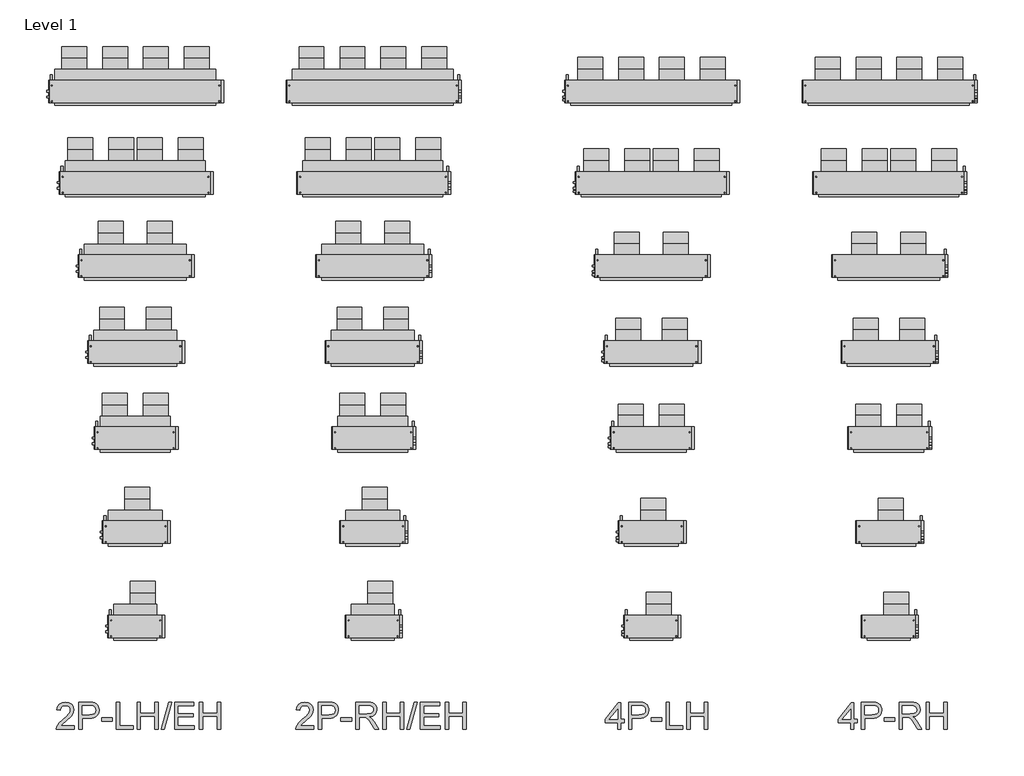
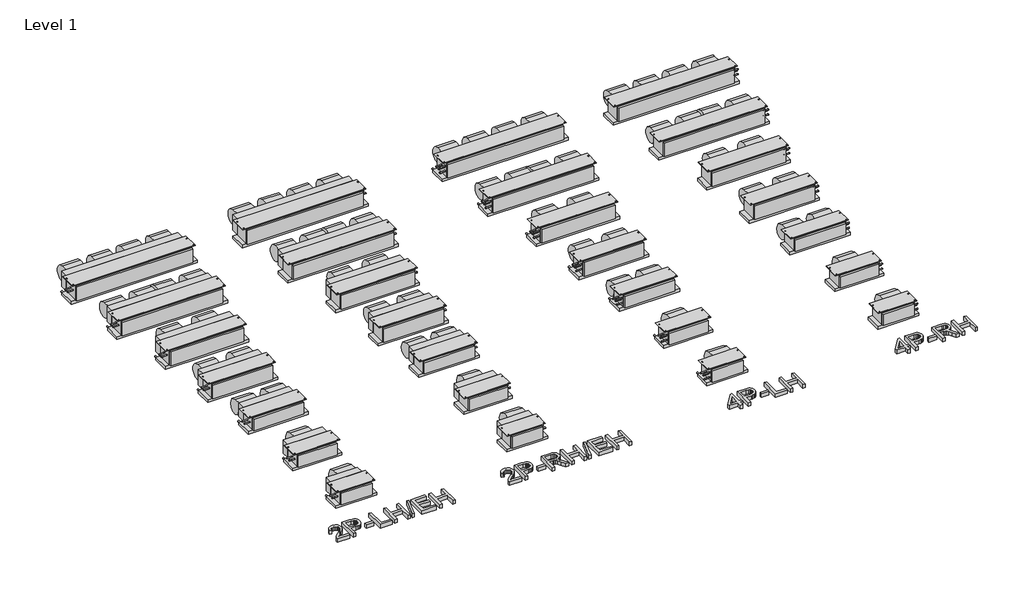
# One storey: 32 proxies.
"""IFC4 building model written with IfcOpenShell, lengths in millimetres."""

from ifc_helpers import new_model, si_unit, origin, origin_with_axes, place, context, project, spatial, polyline, outline, extrude, transform, mapped, element, save
from components import mechanical_equipment_4d875cfd, mechanical_equipment_aa275e35, mechanical_equipment_27b90bb7, mechanical_equipment_f04c1c21, mechanical_equipment_6a71e000, mechanical_equipment_d047f1c4, mechanical_equipment_a045ce82, mechanical_equipment_c10a815c, mechanical_equipment_d114ed6d, mechanical_equipment_5b975ff3, mechanical_equipment_e56f94ae, mechanical_equipment_732dcff0, mechanical_equipment_fb2e328b, mechanical_equipment_f4c6fe70, mechanical_equipment_4d4a7879, mechanical_equipment_7fdcf23d, mechanical_equipment_bc7a5f60, mechanical_equipment_8f95228b, mechanical_equipment_b4faf0b1, mechanical_equipment_d157ac76, mechanical_equipment_1a111bbf, mechanical_equipment_669136e0, mechanical_equipment_ed30026a, mechanical_equipment_0b4bd46c, mechanical_equipment_5134b406, mechanical_equipment_892aee5b, mechanical_equipment_12361658, mechanical_equipment_acb72b8a

model = new_model("IFC4")

# Units and contexts
model_context = context("Model", 3, world=origin())
ifc_project = project(units=[si_unit("LENGTHUNIT", "METRE", prefix="MILLI")], contexts=[model_context])

# Site, building, storey
site = spatial("IfcSite", under=ifc_project)
building = spatial("IfcBuilding", under=site)
storey = spatial("IfcBuildingStorey", under=building, Name="Level 1", Elevation=0.0)

# Proxies
placement = place(None, origin())
mechanical_equipment_shape = mechanical_equipment_4d875cfd(model_context)
element("IfcBuildingElementProxy", 1, Name="Concealed_Horizontal_Fan_Coil_Unit_-_42CAA_-_CARRIER_-_2-Pipe_Cool-EHeat_LH_2022 : Size 02 - 277v/60Hz/1Ph - 4 Row 2.0kW", ObjectType="Concealed_Horizontal_Fan_Coil_Unit_-_42CAA_-_CARRIER_-_2-Pipe_Cool-EHeat_LH_2022 : Size 02 - 277v/60Hz/1Ph - 4 Row 2.0kW", at=placement, inside=storey, context=model_context, shape_type="MappedRepresentation", body=[
    mapped(mechanical_equipment_shape, transform((-13802.5071987, -1053.2557336, 0.0), x_axis=(1.0, 0.0, 0.0), y_axis=(0.0, 1.0, 0.0), z_axis=(0.0, 0.0, 1.0))),
])
mechanical_equipment_2_shape = mechanical_equipment_aa275e35(model_context)
element("IfcBuildingElementProxy", 2, Name="Concealed_Horizontal_Fan_Coil_Unit_-_42CAA_-_CARRIER_-_2-Pipe_Cool-EHeat_LH_2022 : Size 03 - 277v/60Hz/1Ph - 4 Row 3.0kW", ObjectType="Concealed_Horizontal_Fan_Coil_Unit_-_42CAA_-_CARRIER_-_2-Pipe_Cool-EHeat_LH_2022 : Size 03 - 277v/60Hz/1Ph - 4 Row 3.0kW", at=placement, inside=storey, context=model_context, shape_type="MappedRepresentation", body=[
    mapped(mechanical_equipment_2_shape, transform((-13802.5071987, -164.2557336, 0.0), x_axis=(1.0, 0.0, 0.0), y_axis=(0.0, 1.0, 0.0), z_axis=(0.0, 0.0, 1.0))),
])
mechanical_equipment_3_shape = mechanical_equipment_27b90bb7(model_context)
element("IfcBuildingElementProxy", 3, Name="Concealed_Horizontal_Fan_Coil_Unit_-_42CAA_-_CARRIER_-_2-Pipe_Cool-EHeat_LH_2022 : Size 04 - 277v/60Hz/1Ph - 4 Row 3.0kW", ObjectType="Concealed_Horizontal_Fan_Coil_Unit_-_42CAA_-_CARRIER_-_2-Pipe_Cool-EHeat_LH_2022 : Size 04 - 277v/60Hz/1Ph - 4 Row 3.0kW", at=placement, inside=storey, context=model_context, shape_type="MappedRepresentation", body=[
    mapped(mechanical_equipment_3_shape, transform((-13802.5071987, 724.7442664, 0.0), x_axis=(1.0, 0.0, 0.0), y_axis=(0.0, 1.0, 0.0), z_axis=(0.0, 0.0, 1.0))),
])
mechanical_equipment_4_shape = mechanical_equipment_f04c1c21(model_context)
element("IfcBuildingElementProxy", 4, Name="Concealed_Horizontal_Fan_Coil_Unit_-_42CAA_-_CARRIER_-_2-Pipe_Cool-EHeat_LH_2022 : Size 06 - 277v/60Hz/1Ph - 4 Row 6.0kW", ObjectType="Concealed_Horizontal_Fan_Coil_Unit_-_42CAA_-_CARRIER_-_2-Pipe_Cool-EHeat_LH_2022 : Size 06 - 277v/60Hz/1Ph - 4 Row 6.0kW", at=placement, inside=storey, context=model_context, shape_type="MappedRepresentation", body=[
    mapped(mechanical_equipment_4_shape, transform((-13802.5071987, 1537.5442664, 0.0), x_axis=(1.0, 0.0, 0.0), y_axis=(0.0, 1.0, 0.0), z_axis=(0.0, 0.0, 1.0))),
])
mechanical_equipment_5_shape = mechanical_equipment_6a71e000(model_context)
element("IfcBuildingElementProxy", 5, Name="Concealed_Horizontal_Fan_Coil_Unit_-_42CAA_-_CARRIER_-_2-Pipe_Cool-EHeat_LH_2022 : Size 08 - 277v/60Hz/1Ph - 4 Row 6.0kW", ObjectType="Concealed_Horizontal_Fan_Coil_Unit_-_42CAA_-_CARRIER_-_2-Pipe_Cool-EHeat_LH_2022 : Size 08 - 277v/60Hz/1Ph - 4 Row 6.0kW", at=placement, inside=storey, context=model_context, shape_type="MappedRepresentation", body=[
    mapped(mechanical_equipment_5_shape, transform((-13802.5071987, 2350.3442664, 0.0), x_axis=(1.0, 0.0, 0.0), y_axis=(0.0, 1.0, 0.0), z_axis=(0.0, 0.0, 1.0))),
])
mechanical_equipment_6_shape = mechanical_equipment_d047f1c4(model_context)
element("IfcBuildingElementProxy", 6, Name="Concealed_Horizontal_Fan_Coil_Unit_-_42CAA_-_CARRIER_-_2-Pipe_Cool-EHeat_LH_2022 : Size 10 - 277v/60Hz/1Ph - 4 Row 8.0kW", ObjectType="Concealed_Horizontal_Fan_Coil_Unit_-_42CAA_-_CARRIER_-_2-Pipe_Cool-EHeat_LH_2022 : Size 10 - 277v/60Hz/1Ph - 4 Row 8.0kW", at=placement, inside=storey, context=model_context, shape_type="MappedRepresentation", body=[
    mapped(mechanical_equipment_6_shape, transform((-13802.5071987, 3137.7442664, 0.0), x_axis=(1.0, 0.0, 0.0), y_axis=(0.0, 1.0, 0.0), z_axis=(0.0, 0.0, 1.0))),
])
mechanical_equipment_7_shape = mechanical_equipment_a045ce82(model_context)
element("IfcBuildingElementProxy", 7, Name="Concealed_Horizontal_Fan_Coil_Unit_-_42CAA_-_CARRIER_-_2-Pipe_Cool-EHeat_LH_2022 : Size 12 - 277v/60Hz/1Ph - 4 Row 10.0kW", ObjectType="Concealed_Horizontal_Fan_Coil_Unit_-_42CAA_-_CARRIER_-_2-Pipe_Cool-EHeat_LH_2022 : Size 12 - 277v/60Hz/1Ph - 4 Row 10.0kW", at=placement, inside=storey, context=model_context, shape_type="MappedRepresentation", body=[
    mapped(mechanical_equipment_7_shape, transform((-13802.5071987, 4001.3442664, 0.0), x_axis=(1.0, 0.0, 0.0), y_axis=(0.0, 1.0, 0.0), z_axis=(0.0, 0.0, 1.0))),
])
mechanical_equipment_8_shape = mechanical_equipment_c10a815c(model_context)
element("IfcBuildingElementProxy", 8, Name="Concealed_Horizontal_Fan_Coil_Unit_-_42CAA_-_CARRIER_-_4-Pipe_LH_2022 : Size 02 - 277v/60Hz/1Ph - 4/1 Coil", ObjectType="Concealed_Horizontal_Fan_Coil_Unit_-_42CAA_-_CARRIER_-_4-Pipe_LH_2022 : Size 02 - 277v/60Hz/1Ph - 4/1 Coil", at=placement, inside=storey, context=model_context, shape_type="MappedRepresentation", body=[
    mapped(mechanical_equipment_8_shape, transform((-8925.7071987, -1053.2557336, 0.0), x_axis=(1.0, 0.0, 0.0), y_axis=(0.0, 1.0, 0.0), z_axis=(0.0, 0.0, 1.0))),
])
mechanical_equipment_9_shape = mechanical_equipment_d114ed6d(model_context)
element("IfcBuildingElementProxy", 9, Name="Concealed_Horizontal_Fan_Coil_Unit_-_42CAA_-_CARRIER_-_4-Pipe_LH_2022 : Size 03 - 277v/60Hz/1Ph - 4/1 Coil", ObjectType="Concealed_Horizontal_Fan_Coil_Unit_-_42CAA_-_CARRIER_-_4-Pipe_LH_2022 : Size 03 - 277v/60Hz/1Ph - 4/1 Coil", at=placement, inside=storey, context=model_context, shape_type="MappedRepresentation", body=[
    mapped(mechanical_equipment_9_shape, transform((-8925.7071987, -164.2557336, 0.0), x_axis=(1.0, 0.0, 0.0), y_axis=(0.0, 1.0, 0.0), z_axis=(0.0, 0.0, 1.0))),
])
mechanical_equipment_10_shape = mechanical_equipment_5b975ff3(model_context)
element("IfcBuildingElementProxy", 10, Name="Concealed_Horizontal_Fan_Coil_Unit_-_42CAA_-_CARRIER_-_4-Pipe_LH_2022 : Size 04 - 277v/60Hz/1Ph - 4/1 Coil", ObjectType="Concealed_Horizontal_Fan_Coil_Unit_-_42CAA_-_CARRIER_-_4-Pipe_LH_2022 : Size 04 - 277v/60Hz/1Ph - 4/1 Coil", at=placement, inside=storey, context=model_context, shape_type="MappedRepresentation", body=[
    mapped(mechanical_equipment_10_shape, transform((-8925.7071987, 724.7442664, 0.0), x_axis=(1.0, 0.0, 0.0), y_axis=(0.0, 1.0, 0.0), z_axis=(0.0, 0.0, 1.0))),
])
mechanical_equipment_11_shape = mechanical_equipment_e56f94ae(model_context)
element("IfcBuildingElementProxy", 11, Name="Concealed_Horizontal_Fan_Coil_Unit_-_42CAA_-_CARRIER_-_4-Pipe_LH_2022 : Size 06 - 277v/60Hz/1Ph - 4/1 Coil", ObjectType="Concealed_Horizontal_Fan_Coil_Unit_-_42CAA_-_CARRIER_-_4-Pipe_LH_2022 : Size 06 - 277v/60Hz/1Ph - 4/1 Coil", at=placement, inside=storey, context=model_context, shape_type="MappedRepresentation", body=[
    mapped(mechanical_equipment_11_shape, transform((-8925.7071987, 1537.5442664, 0.0), x_axis=(1.0, 0.0, 0.0), y_axis=(0.0, 1.0, 0.0), z_axis=(0.0, 0.0, 1.0))),
])
mechanical_equipment_12_shape = mechanical_equipment_732dcff0(model_context)
element("IfcBuildingElementProxy", 12, Name="Concealed_Horizontal_Fan_Coil_Unit_-_42CAA_-_CARRIER_-_4-Pipe_LH_2022 : Size 08 - 277v/60Hz/1Ph - 4/1 Coil", ObjectType="Concealed_Horizontal_Fan_Coil_Unit_-_42CAA_-_CARRIER_-_4-Pipe_LH_2022 : Size 08 - 277v/60Hz/1Ph - 4/1 Coil", at=placement, inside=storey, context=model_context, shape_type="MappedRepresentation", body=[
    mapped(mechanical_equipment_12_shape, transform((-8925.7071987, 2350.3442664, 0.0), x_axis=(1.0, 0.0, 0.0), y_axis=(0.0, 1.0, 0.0), z_axis=(0.0, 0.0, 1.0))),
])
mechanical_equipment_13_shape = mechanical_equipment_fb2e328b(model_context)
element("IfcBuildingElementProxy", 13, Name="Concealed_Horizontal_Fan_Coil_Unit_-_42CAA_-_CARRIER_-_4-Pipe_LH_2022 : Size 10 - 277v/60Hz/1Ph - 4/1 Coil", ObjectType="Concealed_Horizontal_Fan_Coil_Unit_-_42CAA_-_CARRIER_-_4-Pipe_LH_2022 : Size 10 - 277v/60Hz/1Ph - 4/1 Coil", at=placement, inside=storey, context=model_context, shape_type="MappedRepresentation", body=[
    mapped(mechanical_equipment_13_shape, transform((-8925.7071987, 3137.7442664, 0.0), x_axis=(1.0, 0.0, 0.0), y_axis=(0.0, 1.0, 0.0), z_axis=(0.0, 0.0, 1.0))),
])
mechanical_equipment_14_shape = mechanical_equipment_f4c6fe70(model_context)
element("IfcBuildingElementProxy", 14, Name="Concealed_Horizontal_Fan_Coil_Unit_-_42CAA_-_CARRIER_-_4-Pipe_LH_2022 : Size 12 - 277v/60Hz/1Ph - 4/1 Coil", ObjectType="Concealed_Horizontal_Fan_Coil_Unit_-_42CAA_-_CARRIER_-_4-Pipe_LH_2022 : Size 12 - 277v/60Hz/1Ph - 4/1 Coil", at=placement, inside=storey, context=model_context, shape_type="MappedRepresentation", body=[
    mapped(mechanical_equipment_14_shape, transform((-8925.7071987, 4001.3442664, 0.0), x_axis=(1.0, 0.0, 0.0), y_axis=(0.0, 1.0, 0.0), z_axis=(0.0, 0.0, 1.0))),
])
mechanical_equipment_15_shape = mechanical_equipment_4d4a7879(model_context)
element("IfcBuildingElementProxy", 15, Name="Concealed_Horizontal_Fan_Coil_Unit_-_42CAA_-_CARRIER_-_2-Pipe_Cool-EHeat_RH_2022 : Size 02 - 277v/60Hz/1Ph - 4 Row 2.0kW", ObjectType="Concealed_Horizontal_Fan_Coil_Unit_-_42CAA_-_CARRIER_-_2-Pipe_Cool-EHeat_RH_2022 : Size 02 - 277v/60Hz/1Ph - 4 Row 2.0kW", at=placement, inside=storey, context=model_context, shape_type="MappedRepresentation", body=[
    mapped(mechanical_equipment_15_shape, transform((-11558.3213845, -1053.2557336, 0.0), x_axis=(1.0, 0.0, 0.0), y_axis=(0.0, 1.0, 0.0), z_axis=(0.0, 0.0, 1.0))),
])
mechanical_equipment_16_shape = mechanical_equipment_7fdcf23d(model_context)
element("IfcBuildingElementProxy", 16, Name="Concealed_Horizontal_Fan_Coil_Unit_-_42CAA_-_CARRIER_-_2-Pipe_Cool-EHeat_RH_2022 : Size 03 - 277v/60Hz/1Ph - 4 Row 3.0kW", ObjectType="Concealed_Horizontal_Fan_Coil_Unit_-_42CAA_-_CARRIER_-_2-Pipe_Cool-EHeat_RH_2022 : Size 03 - 277v/60Hz/1Ph - 4 Row 3.0kW", at=placement, inside=storey, context=model_context, shape_type="MappedRepresentation", body=[
    mapped(mechanical_equipment_16_shape, transform((-11558.3213845, -164.2557336, 0.0), x_axis=(1.0, 0.0, 0.0), y_axis=(0.0, 1.0, 0.0), z_axis=(0.0, 0.0, 1.0))),
])
mechanical_equipment_17_shape = mechanical_equipment_bc7a5f60(model_context)
element("IfcBuildingElementProxy", 17, Name="Concealed_Horizontal_Fan_Coil_Unit_-_42CAA_-_CARRIER_-_2-Pipe_Cool-EHeat_RH_2022 : Size 04 - 277v/60Hz/1Ph - 4 Row 3.0kW", ObjectType="Concealed_Horizontal_Fan_Coil_Unit_-_42CAA_-_CARRIER_-_2-Pipe_Cool-EHeat_RH_2022 : Size 04 - 277v/60Hz/1Ph - 4 Row 3.0kW", at=placement, inside=storey, context=model_context, shape_type="MappedRepresentation", body=[
    mapped(mechanical_equipment_17_shape, transform((-11558.3213845, 724.7442664, 0.0), x_axis=(1.0, 0.0, 0.0), y_axis=(0.0, 1.0, 0.0), z_axis=(0.0, 0.0, 1.0))),
])
mechanical_equipment_18_shape = mechanical_equipment_8f95228b(model_context)
element("IfcBuildingElementProxy", 18, Name="Concealed_Horizontal_Fan_Coil_Unit_-_42CAA_-_CARRIER_-_2-Pipe_Cool-EHeat_RH_2022 : Size 06 - 277v/60Hz/1Ph - 4 Row 6.0kW", ObjectType="Concealed_Horizontal_Fan_Coil_Unit_-_42CAA_-_CARRIER_-_2-Pipe_Cool-EHeat_RH_2022 : Size 06 - 277v/60Hz/1Ph - 4 Row 6.0kW", at=placement, inside=storey, context=model_context, shape_type="MappedRepresentation", body=[
    mapped(mechanical_equipment_18_shape, transform((-11558.3213845, 1537.5442664, 0.0), x_axis=(1.0, 0.0, 0.0), y_axis=(0.0, 1.0, 0.0), z_axis=(0.0, 0.0, 1.0))),
])
mechanical_equipment_19_shape = mechanical_equipment_b4faf0b1(model_context)
element("IfcBuildingElementProxy", 19, Name="Concealed_Horizontal_Fan_Coil_Unit_-_42CAA_-_CARRIER_-_2-Pipe_Cool-EHeat_RH_2022 : Size 08 - 277v/60Hz/1Ph - 4 Row 6.0kW", ObjectType="Concealed_Horizontal_Fan_Coil_Unit_-_42CAA_-_CARRIER_-_2-Pipe_Cool-EHeat_RH_2022 : Size 08 - 277v/60Hz/1Ph - 4 Row 6.0kW", at=placement, inside=storey, context=model_context, shape_type="MappedRepresentation", body=[
    mapped(mechanical_equipment_19_shape, transform((-11558.3213845, 2350.3442664, 0.0), x_axis=(1.0, 0.0, 0.0), y_axis=(0.0, 1.0, 0.0), z_axis=(0.0, 0.0, 1.0))),
])
mechanical_equipment_20_shape = mechanical_equipment_d157ac76(model_context)
element("IfcBuildingElementProxy", 20, Name="Concealed_Horizontal_Fan_Coil_Unit_-_42CAA_-_CARRIER_-_2-Pipe_Cool-EHeat_RH_2022 : Size 10 - 277v/60Hz/1Ph - 4 Row 8.0kW", ObjectType="Concealed_Horizontal_Fan_Coil_Unit_-_42CAA_-_CARRIER_-_2-Pipe_Cool-EHeat_RH_2022 : Size 10 - 277v/60Hz/1Ph - 4 Row 8.0kW", at=placement, inside=storey, context=model_context, shape_type="MappedRepresentation", body=[
    mapped(mechanical_equipment_20_shape, transform((-11558.3213845, 3137.7442664, 0.0), x_axis=(1.0, 0.0, 0.0), y_axis=(0.0, 1.0, 0.0), z_axis=(0.0, 0.0, 1.0))),
])
mechanical_equipment_21_shape = mechanical_equipment_1a111bbf(model_context)
element("IfcBuildingElementProxy", 21, Name="Concealed_Horizontal_Fan_Coil_Unit_-_42CAA_-_CARRIER_-_2-Pipe_Cool-EHeat_RH_2022 : Size 12 - 277v/60Hz/1Ph - 4 Row 10.0kW", ObjectType="Concealed_Horizontal_Fan_Coil_Unit_-_42CAA_-_CARRIER_-_2-Pipe_Cool-EHeat_RH_2022 : Size 12 - 277v/60Hz/1Ph - 4 Row 10.0kW", at=placement, inside=storey, context=model_context, shape_type="MappedRepresentation", body=[
    mapped(mechanical_equipment_21_shape, transform((-11558.3213845, 4001.3442664, 0.0), x_axis=(1.0, 0.0, 0.0), y_axis=(0.0, 1.0, 0.0), z_axis=(0.0, 0.0, 1.0))),
])
mechanical_equipment_22_shape = mechanical_equipment_669136e0(model_context)
element("IfcBuildingElementProxy", 22, Name="Concealed_Horizontal_Fan_Coil_Unit_-_42CAA_-_CARRIER_-_4-Pipe_RH_2022 : Size 02 - 277v/60Hz/1Ph - 4/1 Coil", ObjectType="Concealed_Horizontal_Fan_Coil_Unit_-_42CAA_-_CARRIER_-_4-Pipe_RH_2022 : Size 02 - 277v/60Hz/1Ph - 4/1 Coil", at=placement, inside=storey, context=model_context, shape_type="MappedRepresentation", body=[
    mapped(mechanical_equipment_22_shape, transform((-6681.5213845, -1053.2557336, 0.0), x_axis=(1.0, 0.0, 0.0), y_axis=(0.0, 1.0, 0.0), z_axis=(0.0, 0.0, 1.0))),
])
mechanical_equipment_23_shape = mechanical_equipment_ed30026a(model_context)
element("IfcBuildingElementProxy", 23, Name="Concealed_Horizontal_Fan_Coil_Unit_-_42CAA_-_CARRIER_-_4-Pipe_RH_2022 : Size 03 - 277v/60Hz/1Ph - 4/1 Coil", ObjectType="Concealed_Horizontal_Fan_Coil_Unit_-_42CAA_-_CARRIER_-_4-Pipe_RH_2022 : Size 03 - 277v/60Hz/1Ph - 4/1 Coil", at=placement, inside=storey, context=model_context, shape_type="MappedRepresentation", body=[
    mapped(mechanical_equipment_23_shape, transform((-6681.5213845, -164.2557336, 0.0), x_axis=(1.0, 0.0, 0.0), y_axis=(0.0, 1.0, 0.0), z_axis=(0.0, 0.0, 1.0))),
])
mechanical_equipment_24_shape = mechanical_equipment_0b4bd46c(model_context)
element("IfcBuildingElementProxy", 24, Name="Concealed_Horizontal_Fan_Coil_Unit_-_42CAA_-_CARRIER_-_4-Pipe_RH_2022 : Size 04 - 277v/60Hz/1Ph - 4/1 Coil", ObjectType="Concealed_Horizontal_Fan_Coil_Unit_-_42CAA_-_CARRIER_-_4-Pipe_RH_2022 : Size 04 - 277v/60Hz/1Ph - 4/1 Coil", at=placement, inside=storey, context=model_context, shape_type="MappedRepresentation", body=[
    mapped(mechanical_equipment_24_shape, transform((-6681.5213845, 724.7442664, 0.0), x_axis=(1.0, 0.0, 0.0), y_axis=(0.0, 1.0, 0.0), z_axis=(0.0, 0.0, 1.0))),
])
mechanical_equipment_25_shape = mechanical_equipment_5134b406(model_context)
element("IfcBuildingElementProxy", 25, Name="Concealed_Horizontal_Fan_Coil_Unit_-_42CAA_-_CARRIER_-_4-Pipe_RH_2022 : Size 06 - 277v/60Hz/1Ph - 4/1 Coil", ObjectType="Concealed_Horizontal_Fan_Coil_Unit_-_42CAA_-_CARRIER_-_4-Pipe_RH_2022 : Size 06 - 277v/60Hz/1Ph - 4/1 Coil", at=placement, inside=storey, context=model_context, shape_type="MappedRepresentation", body=[
    mapped(mechanical_equipment_25_shape, transform((-6681.5213845, 1537.5442664, 0.0), x_axis=(1.0, 0.0, 0.0), y_axis=(0.0, 1.0, 0.0), z_axis=(0.0, 0.0, 1.0))),
])
mechanical_equipment_26_shape = mechanical_equipment_892aee5b(model_context)
element("IfcBuildingElementProxy", 26, Name="Concealed_Horizontal_Fan_Coil_Unit_-_42CAA_-_CARRIER_-_4-Pipe_RH_2022 : Size 08 - 277v/60Hz/1Ph - 4/1 Coil", ObjectType="Concealed_Horizontal_Fan_Coil_Unit_-_42CAA_-_CARRIER_-_4-Pipe_RH_2022 : Size 08 - 277v/60Hz/1Ph - 4/1 Coil", at=placement, inside=storey, context=model_context, shape_type="MappedRepresentation", body=[
    mapped(mechanical_equipment_26_shape, transform((-6681.5213845, 2350.3442664, 0.0), x_axis=(1.0, 0.0, 0.0), y_axis=(0.0, 1.0, 0.0), z_axis=(0.0, 0.0, 1.0))),
])
mechanical_equipment_27_shape = mechanical_equipment_12361658(model_context)
element("IfcBuildingElementProxy", 27, Name="Concealed_Horizontal_Fan_Coil_Unit_-_42CAA_-_CARRIER_-_4-Pipe_RH_2022 : Size 10 - 277v/60Hz/1Ph - 4/1 Coil", ObjectType="Concealed_Horizontal_Fan_Coil_Unit_-_42CAA_-_CARRIER_-_4-Pipe_RH_2022 : Size 10 - 277v/60Hz/1Ph - 4/1 Coil", at=placement, inside=storey, context=model_context, shape_type="MappedRepresentation", body=[
    mapped(mechanical_equipment_27_shape, transform((-6681.5213845, 3137.7442664, 0.0), x_axis=(1.0, 0.0, 0.0), y_axis=(0.0, 1.0, 0.0), z_axis=(0.0, 0.0, 1.0))),
])
mechanical_equipment_28_shape = mechanical_equipment_acb72b8a(model_context)
element("IfcBuildingElementProxy", 28, Name="Concealed_Horizontal_Fan_Coil_Unit_-_42CAA_-_CARRIER_-_4-Pipe_RH_2022 : Size 12 - 277v/60Hz/1Ph - 4/1 Coil", ObjectType="Concealed_Horizontal_Fan_Coil_Unit_-_42CAA_-_CARRIER_-_4-Pipe_RH_2022 : Size 12 - 277v/60Hz/1Ph - 4/1 Coil", at=placement, inside=storey, context=model_context, shape_type="MappedRepresentation", body=[
    mapped(mechanical_equipment_28_shape, transform((-6681.5213845, 4001.3442664, 0.0), x_axis=(1.0, 0.0, 0.0), y_axis=(0.0, 1.0, 0.0), z_axis=(0.0, 0.0, 1.0))),
])
element("IfcBuildingElementProxy", 29, Name="24\" Arial", ObjectType="24\" Arial", at=placement, inside=storey, context=model_context, shape_type="SweptSolid", body=[
    extrude(outline(polyline([(-14227.1148112, -2231.8462306), (-14227.1148112, -2263.741109), (-14394.5629232, -2263.741109), (-14391.1367155, -2241.7510854), (-14383.2720116, -2224.5655393), (-14371.7630686, -2207.8939244), (-14331.8321758, -2170.9220291), (-14297.4143627, -2140.3509127), (-14276.7636747, -2117.7846632), (-14266.4383308, -2099.470026), (-14262.9965495, -2081.6537462), (-14266.2436599, -2065.6829465), (-14275.9849912, -2052.4063918), (-14290.959076, -2043.4593178), (-14309.9044469, -2040.4769597), (-14329.7998118, -2043.3892362), (-14345.2566804, -2052.1260657), (-14355.2316167, -2066.0022067), (-14358.6811849, -2084.3324176), (-14390.5760633, -2080.3455578), (-14382.8437356, -2049.4941153), (-14366.1253997, -2026.9590132), (-14341.2931811, -2013.1763142), (-14309.2192054, -2008.5820813), (-14276.9116246, -2013.6902454), (-14252.126127, -2029.0147378), (-14236.357785, -2051.9080343), (-14231.101671, -2079.722611), (-14236.7704873, -2109.9666803), (-14255.6146293, -2141.2386119), (-14301.3077804, -2184.9383331), (-14337.9993496, -2215.6184653), (-14352.3894217, -2231.8462306), (-14227.1148112, -2231.8462306)])), origin_with_axes(), (0.0, 0.0, 1.0), 50.8),
    extrude(outline(polyline([(-14183.2593533, -2263.741109), (-14183.2593533, -2008.5820813), (-14088.6960222, -2008.5820813), (-14050.5716753, -2011.011574), (-14033.5730132, -2015.5512991), (-14019.5800697, -2022.941006), (-14008.3125186, -2033.5155287), (-13999.490034, -2047.6097011), (-13993.7900703, -2064.234595), (-13991.8900824, -2082.4012824), (-13997.0216071, -2112.4740414), (-14012.416181, -2137.5320782), (-14024.7446884, -2147.3979989), (-14041.2041121, -2154.4450851), (-14061.794452, -2158.6733368), (-14086.5157082, -2160.082754), (-14151.3644748, -2160.082754), (-14151.3644748, -2263.741109), (-14183.2593533, -2263.741109)]), holes=[polyline([(-14151.3644748, -2128.1878755), (-14084.6468677, -2128.1878755), (-14056.3650809, -2125.2600254), (-14037.6766756, -2116.4764748), (-14027.2578896, -2102.3823025), (-14023.7849609, -2083.5225867), (-14025.8328987, -2069.1948093), (-14031.9767119, -2057.1096405), (-14041.4532908, -2048.0146166), (-14053.4995254, -2042.6572737), (-14085.3944039, -2040.4769597), (-14151.3644748, -2040.4769597), (-14151.3644748, -2128.1878755)])]), origin_with_axes(), (0.0, 0.0, 1.0), 50.8),
    extrude(outline(polyline([(-13967.9689236, -2187.9907727), (-13967.9689236, -2156.0958942), (-13868.2974284, -2156.0958942), (-13868.2974284, -2187.9907727), (-13967.9689236, -2187.9907727)])), origin_with_axes(), (0.0, 0.0, 1.0), 50.8),
    extrude(outline(polyline([(-13828.4288303, -2263.741109), (-13828.4288303, -2008.5820813), (-13796.5339518, -2008.5820813), (-13796.5339518, -2231.8462306), (-13668.9544379, -2231.8462306), (-13668.9544379, -2263.741109), (-13828.4288303, -2263.741109)])), origin_with_axes(), (0.0, 0.0, 1.0), 50.8),
    extrude(outline(polyline([(-13633.0726996, -2263.741109), (-13633.0726996, -2008.5820813), (-13601.1778212, -2008.5820813), (-13601.1778212, -2112.2404363), (-13465.6245876, -2112.2404363), (-13465.6245876, -2008.5820813), (-13433.7297092, -2008.5820813), (-13433.7297092, -2263.741109), (-13465.6245876, -2263.741109), (-13465.6245876, -2144.1353148), (-13601.1778212, -2144.1353148), (-13601.1778212, -2263.741109), (-13633.0726996, -2263.741109)])), origin_with_axes(), (0.0, 0.0, 1.0), 50.8),
    extrude(outline(polyline([(-13405.8216905, -2263.741109), (-13334.0582139, -2008.5820813), (-13305.2780697, -2008.5820813), (-13377.0415463, -2263.741109), (-13405.8216905, -2263.741109)])), origin_with_axes(), (0.0, 0.0, 1.0), 50.8),
    extrude(outline(polyline([(-13278.2421766, -2263.741109), (-13278.2421766, -2008.5820813), (-13094.8466254, -2008.5820813), (-13094.8466254, -2040.4769597), (-13246.3472981, -2040.4769597), (-13246.3472981, -2116.2272961), (-13102.820345, -2116.2272961), (-13102.820345, -2148.1221746), (-13246.3472981, -2148.1221746), (-13246.3472981, -2231.8462306), (-13090.8597656, -2231.8462306), (-13090.8597656, -2263.741109), (-13278.2421766, -2263.741109)])), origin_with_axes(), (0.0, 0.0, 1.0), 50.8),
    extrude(outline(polyline([(-13043.0174479, -2263.741109), (-13043.0174479, -2008.5820813), (-13011.1225694, -2008.5820813), (-13011.1225694, -2112.2404363), (-12875.5693359, -2112.2404363), (-12875.5693359, -2008.5820813), (-12843.6744574, -2008.5820813), (-12843.6744574, -2263.741109), (-12875.5693359, -2263.741109), (-12875.5693359, -2144.1353148), (-13011.1225694, -2144.1353148), (-13011.1225694, -2263.741109), (-13043.0174479, -2263.741109)])), origin_with_axes(), (0.0, 0.0, 1.0), 50.8),
])
element("IfcBuildingElementProxy", 30, Name="24\" Arial", ObjectType="24\" Arial", at=placement, inside=storey, context=model_context, shape_type="SweptSolid", body=[
    extrude(outline(polyline([(-11964.9100314, -2231.8462306), (-11964.9100314, -2263.741109), (-12132.3581434, -2263.741109), (-12128.9319358, -2241.7510854), (-12121.0672318, -2224.5655393), (-12109.5582889, -2207.8939244), (-12069.6273961, -2170.9220291), (-12035.2095829, -2140.3509127), (-12014.558895, -2117.7846632), (-12004.233551, -2099.470026), (-12000.7917697, -2081.6537462), (-12004.0388801, -2065.6829465), (-12013.7802114, -2052.4063918), (-12028.7542962, -2043.4593178), (-12047.6996672, -2040.4769597), (-12067.595032, -2043.3892362), (-12083.0519006, -2052.1260657), (-12093.026837, -2066.0022067), (-12096.4764051, -2084.3324176), (-12128.3712836, -2080.3455578), (-12120.6389559, -2049.4941153), (-12103.9206199, -2026.9590132), (-12079.0884013, -2013.1763142), (-12047.0144256, -2008.5820813), (-12014.7068449, -2013.6902454), (-11989.9213473, -2029.0147378), (-11974.1530053, -2051.9080343), (-11968.8968912, -2079.722611), (-11974.5657075, -2109.9666803), (-11993.4098496, -2141.2386119), (-12039.1030007, -2184.9383331), (-12075.7945699, -2215.6184653), (-12090.184642, -2231.8462306), (-11964.9100314, -2231.8462306)])), origin_with_axes(), (0.0, 0.0, 1.0), 50.8),
    extrude(outline(polyline([(-11921.0545735, -2263.741109), (-11921.0545735, -2008.5820813), (-11826.4912424, -2008.5820813), (-11788.3668955, -2011.011574), (-11771.3682335, -2015.5512991), (-11757.37529, -2022.941006), (-11746.1077389, -2033.5155287), (-11737.2852542, -2047.6097011), (-11731.5852906, -2064.234595), (-11729.6853027, -2082.4012824), (-11734.8168273, -2112.4740414), (-11750.2114012, -2137.5320782), (-11762.5399087, -2147.3979989), (-11778.9993323, -2154.4450851), (-11799.5896723, -2158.6733368), (-11824.3109285, -2160.082754), (-11889.1596951, -2160.082754), (-11889.1596951, -2263.741109), (-11921.0545735, -2263.741109)]), holes=[polyline([(-11889.1596951, -2128.1878755), (-11822.4420879, -2128.1878755), (-11794.1603012, -2125.2600254), (-11775.4718958, -2116.4764748), (-11765.0531098, -2102.3823025), (-11761.5801812, -2083.5225867), (-11763.6281189, -2069.1948093), (-11769.7719322, -2057.1096405), (-11779.2485111, -2048.0146166), (-11791.2947457, -2042.6572737), (-11823.1896242, -2040.4769597), (-11889.1596951, -2040.4769597), (-11889.1596951, -2128.1878755)])]), origin_with_axes(), (0.0, 0.0, 1.0), 50.8),
    extrude(outline(polyline([(-11705.7641438, -2187.9907727), (-11705.7641438, -2156.0958942), (-11606.0926486, -2156.0958942), (-11606.0926486, -2187.9907727), (-11705.7641438, -2187.9907727)])), origin_with_axes(), (0.0, 0.0, 1.0), 50.8),
    extrude(outline(polyline([(-11566.2240505, -2263.741109), (-11566.2240505, -2008.5820813), (-11456.2739324, -2008.5820813), (-11426.7228914, -2010.3029719), (-11405.2234384, -2015.4656439), (-11389.5096042, -2024.9967306), (-11377.3154197, -2039.8228655), (-11369.48965, -2058.2075843), (-11366.8810601, -2078.4144226), (-11371.2027538, -2103.5503278), (-11384.167835, -2124.3878998), (-11406.1656455, -2139.6656712), (-11437.585527, -2148.1221746), (-11419.4577738, -2161.7647105), (-11393.6054797, -2194.5940092), (-11351.0582102, -2263.741109), (-11388.1235475, -2263.741109), (-11421.3266143, -2210.8529219), (-11445.3100679, -2175.8433092), (-11462.16078, -2159.3040704), (-11477.3295357, -2153.2303387), (-11495.831057, -2152.1090344), (-11534.3291721, -2152.1090344), (-11534.3291721, -2263.741109), (-11566.2240505, -2263.741109)]), holes=[polyline([(-11534.3291721, -2120.2141559), (-11462.9394636, -2120.2141559), (-11426.5282205, -2115.6977913), (-11414.5520674, -2109.8265173), (-11405.8463852, -2101.2454245), (-11400.5435502, -2090.8655727), (-11398.7759385, -2079.5980216), (-11402.1476383, -2064.0399242), (-11412.2627377, -2051.5031189), (-11429.6663152, -2043.2334995), (-11454.9034493, -2040.4769597), (-11534.3291721, -2040.4769597), (-11534.3291721, -2120.2141559)])]), origin_with_axes(), (0.0, 0.0, 1.0), 50.8),
    extrude(outline(polyline([(-11311.0650227, -2263.741109), (-11311.0650227, -2008.5820813), (-11279.1701443, -2008.5820813), (-11279.1701443, -2112.2404363), (-11143.6169108, -2112.2404363), (-11143.6169108, -2008.5820813), (-11111.7220323, -2008.5820813), (-11111.7220323, -2263.741109), (-11143.6169108, -2263.741109), (-11143.6169108, -2144.1353148), (-11279.1701443, -2144.1353148), (-11279.1701443, -2263.741109), (-11311.0650227, -2263.741109)])), origin_with_axes(), (0.0, 0.0, 1.0), 50.8),
    extrude(outline(polyline([(-11083.8140136, -2263.741109), (-11012.0505371, -2008.5820813), (-10983.2703928, -2008.5820813), (-11055.0338694, -2263.741109), (-11083.8140136, -2263.741109)])), origin_with_axes(), (0.0, 0.0, 1.0), 50.8),
    extrude(outline(polyline([(-10956.2344997, -2263.741109), (-10956.2344997, -2008.5820813), (-10772.8389485, -2008.5820813), (-10772.8389485, -2040.4769597), (-10924.3396213, -2040.4769597), (-10924.3396213, -2116.2272961), (-10780.8126681, -2116.2272961), (-10780.8126681, -2148.1221746), (-10924.3396213, -2148.1221746), (-10924.3396213, -2231.8462306), (-10768.8520887, -2231.8462306), (-10768.8520887, -2263.741109), (-10956.2344997, -2263.741109)])), origin_with_axes(), (0.0, 0.0, 1.0), 50.8),
    extrude(outline(polyline([(-10721.009771, -2263.741109), (-10721.009771, -2008.5820813), (-10689.1148925, -2008.5820813), (-10689.1148925, -2112.2404363), (-10553.561659, -2112.2404363), (-10553.561659, -2008.5820813), (-10521.6667806, -2008.5820813), (-10521.6667806, -2263.741109), (-10553.561659, -2263.741109), (-10553.561659, -2144.1353148), (-10689.1148925, -2144.1353148), (-10689.1148925, -2263.741109), (-10721.009771, -2263.741109)])), origin_with_axes(), (0.0, 0.0, 1.0), 50.8),
])
element("IfcBuildingElementProxy", 31, Name="24\" Arial", ObjectType="24\" Arial", at=placement, inside=storey, context=model_context, shape_type="SweptSolid", body=[
    extrude(outline(polyline([(-9092.1870689, -2263.741109), (-9092.1870689, -2203.9382119), (-9207.8060034, -2203.9382119), (-9207.8060034, -2172.0433334), (-9084.2133493, -2012.5689411), (-9060.2921905, -2012.5689411), (-9060.2921905, -2172.0433334), (-9028.397312, -2172.0433334), (-9028.397312, -2203.9382119), (-9060.2921905, -2203.9382119), (-9060.2921905, -2263.741109), (-9092.1870689, -2263.741109)]), holes=[polyline([(-9092.1870689, -2172.0433334), (-9092.1870689, -2073.4931425), (-9168.5603521, -2172.0433334), (-9092.1870689, -2172.0433334)])]), origin_with_axes(), (0.0, 0.0, 1.0), 50.8),
    extrude(outline(polyline([(-8988.5287139, -2263.741109), (-8988.5287139, -2008.5820813), (-8893.9653828, -2008.5820813), (-8855.8410359, -2011.011574), (-8838.8423738, -2015.5512991), (-8824.8494303, -2022.941006), (-8813.5818793, -2033.5155287), (-8804.7593946, -2047.6097011), (-8799.0594309, -2064.234595), (-8797.1594431, -2082.4012824), (-8802.2909677, -2112.4740414), (-8817.6855416, -2137.5320782), (-8830.014049, -2147.3979989), (-8846.4734727, -2154.4450851), (-8867.0638126, -2158.6733368), (-8891.7850688, -2160.082754), (-8956.6338354, -2160.082754), (-8956.6338354, -2263.741109), (-8988.5287139, -2263.741109)]), holes=[polyline([(-8956.6338354, -2128.1878755), (-8889.9162283, -2128.1878755), (-8861.6344415, -2125.2600254), (-8842.9460362, -2116.4764748), (-8832.5272502, -2102.3823025), (-8829.0543215, -2083.5225867), (-8831.1022593, -2069.1948093), (-8837.2460725, -2057.1096405), (-8846.7226514, -2048.0146166), (-8858.768886, -2042.6572737), (-8890.6637645, -2040.4769597), (-8956.6338354, -2040.4769597), (-8956.6338354, -2128.1878755)])]), origin_with_axes(), (0.0, 0.0, 1.0), 50.8),
    extrude(outline(polyline([(-8773.2382842, -2187.9907727), (-8773.2382842, -2156.0958942), (-8673.566789, -2156.0958942), (-8673.566789, -2187.9907727), (-8773.2382842, -2187.9907727)])), origin_with_axes(), (0.0, 0.0, 1.0), 50.8),
    extrude(outline(polyline([(-8633.6981909, -2263.741109), (-8633.6981909, -2008.5820813), (-8601.8033124, -2008.5820813), (-8601.8033124, -2231.8462306), (-8474.2237985, -2231.8462306), (-8474.2237985, -2263.741109), (-8633.6981909, -2263.741109)])), origin_with_axes(), (0.0, 0.0, 1.0), 50.8),
    extrude(outline(polyline([(-8438.3420602, -2263.741109), (-8438.3420602, -2008.5820813), (-8406.4471818, -2008.5820813), (-8406.4471818, -2112.2404363), (-8270.8939483, -2112.2404363), (-8270.8939483, -2008.5820813), (-8238.9990698, -2008.5820813), (-8238.9990698, -2263.741109), (-8270.8939483, -2263.741109), (-8270.8939483, -2144.1353148), (-8406.4471818, -2144.1353148), (-8406.4471818, -2263.741109), (-8438.3420602, -2263.741109)])), origin_with_axes(), (0.0, 0.0, 1.0), 50.8),
])
element("IfcBuildingElementProxy", 32, Name="24\" Arial", ObjectType="24\" Arial", at=placement, inside=storey, context=model_context, shape_type="SweptSolid", body=[
    extrude(outline(polyline([(-6890.3965244, -2263.741109), (-6890.3965244, -2203.9382119), (-7006.0154588, -2203.9382119), (-7006.0154588, -2172.0433334), (-6882.4228047, -2012.5689411), (-6858.5016459, -2012.5689411), (-6858.5016459, -2172.0433334), (-6826.6067674, -2172.0433334), (-6826.6067674, -2203.9382119), (-6858.5016459, -2203.9382119), (-6858.5016459, -2263.741109), (-6890.3965244, -2263.741109)]), holes=[polyline([(-6890.3965244, -2172.0433334), (-6890.3965244, -2073.4931425), (-6966.7698076, -2172.0433334), (-6890.3965244, -2172.0433334)])]), origin_with_axes(), (0.0, 0.0, 1.0), 50.8),
    extrude(outline(polyline([(-6786.7381693, -2263.741109), (-6786.7381693, -2008.5820813), (-6692.1748382, -2008.5820813), (-6654.0504913, -2011.011574), (-6637.0518293, -2015.5512991), (-6623.0588858, -2022.941006), (-6611.7913347, -2033.5155287), (-6602.96885, -2047.6097011), (-6597.2688864, -2064.234595), (-6595.3688985, -2082.4012824), (-6600.5004231, -2112.4740414), (-6615.894997, -2137.5320782), (-6628.2235044, -2147.3979989), (-6644.6829281, -2154.4450851), (-6665.2732681, -2158.6733368), (-6689.9945243, -2160.082754), (-6754.8432909, -2160.082754), (-6754.8432909, -2263.741109), (-6786.7381693, -2263.741109)]), holes=[polyline([(-6754.8432909, -2128.1878755), (-6688.1256837, -2128.1878755), (-6659.843897, -2125.2600254), (-6641.1554916, -2116.4764748), (-6630.7367056, -2102.3823025), (-6627.263777, -2083.5225867), (-6629.3117147, -2069.1948093), (-6635.455528, -2057.1096405), (-6644.9321069, -2048.0146166), (-6656.9783415, -2042.6572737), (-6688.8732199, -2040.4769597), (-6754.8432909, -2040.4769597), (-6754.8432909, -2128.1878755)])]), origin_with_axes(), (0.0, 0.0, 1.0), 50.8),
    extrude(outline(polyline([(-6571.4477396, -2187.9907727), (-6571.4477396, -2156.0958942), (-6471.7762444, -2156.0958942), (-6471.7762444, -2187.9907727), (-6571.4477396, -2187.9907727)])), origin_with_axes(), (0.0, 0.0, 1.0), 50.8),
    extrude(outline(polyline([(-6431.9076463, -2263.741109), (-6431.9076463, -2008.5820813), (-6321.9575281, -2008.5820813), (-6292.4064872, -2010.3029719), (-6270.9070342, -2015.4656439), (-6255.1932, -2024.9967306), (-6242.9990155, -2039.8228655), (-6235.1732458, -2058.2075843), (-6232.5646559, -2078.4144226), (-6236.8863496, -2103.5503278), (-6249.8514308, -2124.3878998), (-6271.8492413, -2139.6656712), (-6303.2691228, -2148.1221746), (-6285.1413696, -2161.7647105), (-6259.2890755, -2194.5940092), (-6216.741806, -2263.741109), (-6253.8071433, -2263.741109), (-6287.0102101, -2210.8529219), (-6310.9936637, -2175.8433092), (-6327.8443758, -2159.3040704), (-6343.0131315, -2153.2303387), (-6361.5146528, -2152.1090344), (-6400.0127678, -2152.1090344), (-6400.0127678, -2263.741109), (-6431.9076463, -2263.741109)]), holes=[polyline([(-6400.0127678, -2120.2141559), (-6328.6230594, -2120.2141559), (-6292.2118163, -2115.6977913), (-6280.2356632, -2109.8265173), (-6271.529981, -2101.2454245), (-6266.227146, -2090.8655727), (-6264.4595343, -2079.5980216), (-6267.8312341, -2064.0399242), (-6277.9463335, -2051.5031189), (-6295.349911, -2043.2334995), (-6320.5870451, -2040.4769597), (-6400.0127678, -2040.4769597), (-6400.0127678, -2120.2141559)])]), origin_with_axes(), (0.0, 0.0, 1.0), 50.8),
    extrude(outline(polyline([(-6176.7486185, -2263.741109), (-6176.7486185, -2008.5820813), (-6144.8537401, -2008.5820813), (-6144.8537401, -2112.2404363), (-6009.3005066, -2112.2404363), (-6009.3005066, -2008.5820813), (-5977.4056281, -2008.5820813), (-5977.4056281, -2263.741109), (-6009.3005066, -2263.741109), (-6009.3005066, -2144.1353148), (-6144.8537401, -2144.1353148), (-6144.8537401, -2263.741109), (-6176.7486185, -2263.741109)])), origin_with_axes(), (0.0, 0.0, 1.0), 50.8),
])

save(model, "model.ifc")
